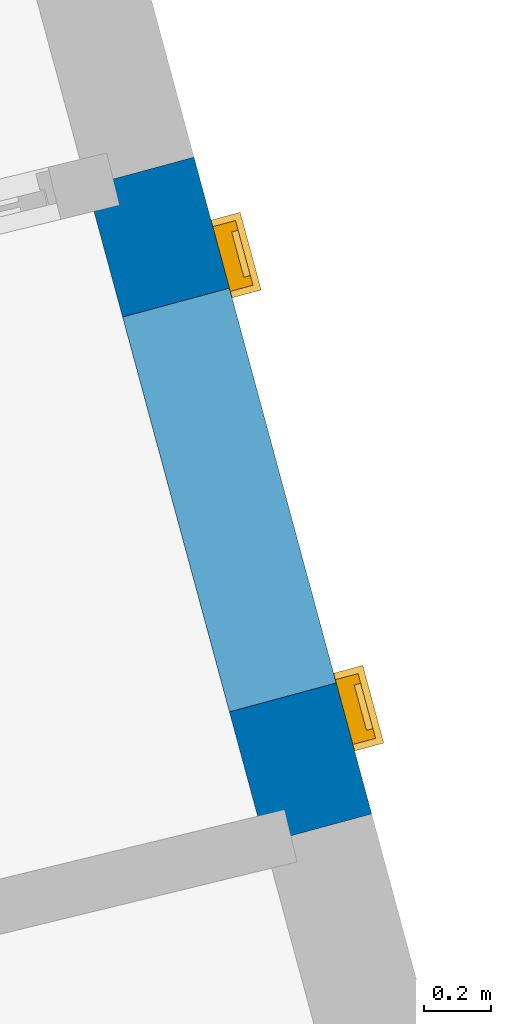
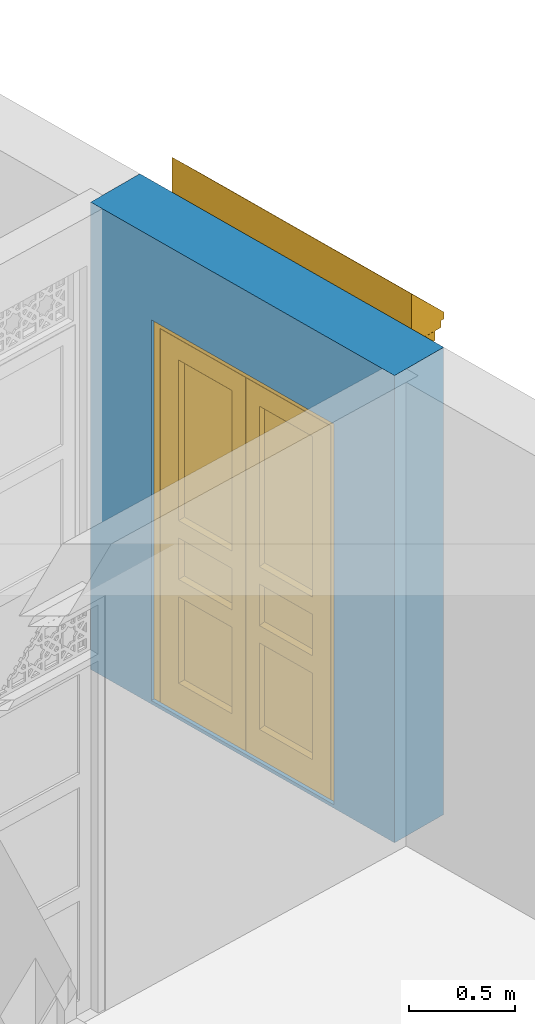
# One storey, part 12 of 15: 1 door, 1 wall, 1 opening.
"""IFC4 building model written with IfcOpenShell, lengths in metres."""

from ifc_helpers import new_model, si_unit, frame, origin, origin_with_axes, place, context, subcontext, project, spatial, polyline, outline, extrude, faceted_brep, source, transform, mapped, material, layer, layer_set, layer_usage, type_object, type_shapes, element, fill, save


model = new_model("IFC4")

# Units and contexts
model_context = context("Model", 3, world=origin_with_axes())
body_context = subcontext(model_context, "Body", "Model", "MODEL_VIEW")
ifc_project = project(units=[si_unit("PLANEANGLEUNIT", "RADIAN"), si_unit("MASSUNIT", "GRAM", prefix="KILO"), si_unit("FORCEUNIT", "NEWTON", prefix="KILO"), si_unit("LENGTHUNIT", "METRE"), si_unit("AREAUNIT", "SQUARE_METRE"), si_unit("VOLUMEUNIT", "CUBIC_METRE")], contexts=[model_context, model_context])

# Site, building, storey
site_placement = place(None, origin_with_axes())
site = spatial("IfcSite", under=ifc_project, at=site_placement, Name="Site plot-4", CompositionType="ELEMENT")
building_placement = place(None, origin_with_axes())
building = spatial("IfcBuilding", under=site, at=building_placement, Name="Building plot-4", CompositionType="ELEMENT")
storey_placement = place(None, origin_with_axes())
storey = spatial("IfcBuildingStorey", under=building, at=storey_placement, Name="plot-4 0", CompositionType="ELEMENT", Elevation=0.0)

# Wall, opening, door
ifc_material = material(Name="Masonry")
ifc_layer = layer(ifc_material, 0.33, ventilated=False)
ifc_layer_set = layer_set([ifc_layer], Name="exterior_0.08_0.25")
ifc_layer_usage = layer_usage(ifc_layer_set, "AXIS2", "POSITIVE", -0.25)
wall_type = type_object("IfcWallType", Name="exterior_0.08_0.25", PredefinedType="SOLIDWALL", material=ifc_layer_set)
wall_placement = place(storey_placement, frame((27.9291027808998, 11.5572365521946, 0.0), z_axis=(0.0, 0.0, 1.0), x_axis=(-0.261170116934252, 0.965292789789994, 0.0)))
wall = element("IfcWall", 1, at=wall_placement, inside=storey, type_object=wall_type, material=ifc_layer_usage, Name="exterior", context=body_context, shape_type="SweptSolid", body=[
    extrude(outline(polyline([(-1.01682823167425e-16, 0.0799999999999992), (1.51410916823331e-15, -0.250000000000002), (2.02945493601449, -0.250000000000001), (2.02945493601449, 0.0799999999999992), (-1.01682823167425e-16, 0.0799999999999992)])), origin_with_axes(), (0.0, 0.0, 1.0), 2.7),
])
opening_placement = place(wall_placement, frame((0.404727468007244, 0.0, 0.02)))
opening = element("IfcOpeningElement", 2, at=opening_placement, cuts=wall, Name="My Opening", ObjectType="Opening", context=body_context, shape_type="SweptSolid", body=[
    extrude(outline(polyline([(0.0, -0.27), (1.22, -0.270000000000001), (1.22, 1.1), (5.55111512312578e-17, 1.1), (0.0, -0.27)])), origin_with_axes(), (0.0, 0.0, 1.0), 2.2),
])
door_type = type_object("IfcDoorType", Name="tunis_entry_short", OperationType="SINGLE_SWING_LEFT", PredefinedType="NOTDEFINED")
shared_shape = source(origin(), body_context, "Body", "Brep", [
    faceted_brep([(0.608, 0.33, 2.158), (0.042, 0.33, 2.158), (0.042, 0.28, 2.158), (0.608, 0.28, 2.158), (0.518, 0.33, 2.038), (0.162, 0.33, 2.038), (0.608, 0.33, 1.11), (0.608, 0.28, 1.11), (0.162, 0.28, 2.038), (0.518, 0.28, 2.038), (0.042, 0.33, 1.11), (0.042, 0.28, 1.11), (0.503, 0.31, 2.018), (0.182, 0.31, 2.018), (0.518, 0.33, 1.11), (0.162, 0.33, 1.11), (0.608, 0.28, 1.01), (0.608, 0.33, 1.01), (0.518, 0.28, 1.11), (0.182, 0.3, 2.018), (0.503, 0.3, 2.018), (0.162, 0.28, 1.11), (0.042, 0.33, 1.01), (0.042, 0.28, 1.01), (0.182, 0.31, 1.13), (0.503, 0.31, 1.13), (0.518, 0.33, 1.01), (0.162, 0.33, 1.01), (0.608, 0.28, 0.77), (0.608, 0.33, 0.77), (0.518, 0.28, 1.01), (0.503, 0.3, 1.13), (0.182, 0.3, 1.13), (0.162, 0.28, 1.01), (0.042, 0.33, 0.77), (0.042, 0.28, 0.77), (0.518, 0.33, 0.77), (0.162, 0.33, 0.77), (0.608, 0.28, 0.67), (0.608, 0.33, 0.67), (0.518, 0.28, 0.77), (0.162, 0.28, 0.77), (0.042, 0.33, 0.67), (0.042, 0.28, 0.67), (0.503, 0.31, 0.99), (0.182, 0.31, 0.99), (0.503, 0.31, 0.79), (0.518, 0.33, 0.67), (0.162, 0.33, 0.67), (0.182, 0.31, 0.79), (0.608, 0.33, 0.0), (0.608, 0.28, 0.0), (0.518, 0.28, 0.67), (0.503, 0.3, 0.99), (0.503, 0.3, 0.79), (0.182, 0.3, 0.99), (0.182, 0.3, 0.79), (0.162, 0.28, 0.67), (0.042, 0.28, 0.0), (0.042, 0.33, 0.0), (0.518, 0.33, 0.17), (0.162, 0.33, 0.17), (0.518, 0.28, 0.17), (0.483, 0.3, 0.97), (0.483, 0.3, 0.81), (0.202, 0.3, 0.97), (0.202, 0.3, 0.81), (0.162, 0.28, 0.17), (0.503, 0.31, 0.65), (0.182, 0.31, 0.65), (0.503, 0.31, 0.19), (0.182, 0.31, 0.19), (0.503, 0.3, 0.65), (0.503, 0.3, 0.19), (0.182, 0.3, 0.65), (0.483, 0.29, 0.97), (0.483, 0.29, 0.81), (0.202, 0.29, 0.97), (0.202, 0.29, 0.81), (0.182, 0.3, 0.19), (0.403, 0.26, 0.89), (0.282, 0.26, 0.89), (1.178, 0.33, 2.158), (0.612, 0.33, 2.158), (0.612, 0.28, 2.158), (1.178, 0.28, 2.158), (1.058, 0.33, 2.038), (0.702, 0.33, 2.038), (0.612, 0.33, 1.11), (0.612, 0.28, 1.11), (0.702, 0.28, 2.038), (1.058, 0.28, 2.038), (1.178, 0.28, 1.11), (1.178, 0.33, 1.11), (1.038, 0.31, 2.018), (0.717, 0.31, 2.018), (0.702, 0.33, 1.11), (1.058, 0.33, 1.11), (0.612, 0.33, 1.01), (0.612, 0.28, 1.01), (0.702, 0.28, 1.11), (0.717, 0.3, 2.018), (1.038, 0.3, 2.018), (1.058, 0.28, 1.11), (1.178, 0.28, 1.01), (1.178, 0.33, 1.01), (1.038, 0.31, 1.13), (0.717, 0.31, 1.13), (0.702, 0.33, 1.01), (1.058, 0.33, 1.01), (0.612, 0.33, 0.77), (0.612, 0.28, 0.77), (0.702, 0.28, 1.01), (0.717, 0.3, 1.13), (1.038, 0.3, 1.13), (1.058, 0.28, 1.01), (1.178, 0.28, 0.77), (1.178, 0.33, 0.77), (0.702, 0.33, 0.77), (1.058, 0.33, 0.77), (0.612, 0.33, 0.67), (0.612, 0.28, 0.67), (0.702, 0.28, 0.77), (1.058, 0.28, 0.77), (1.178, 0.28, 0.67), (1.178, 0.33, 0.67), (1.038, 0.31, 0.99), (0.717, 0.31, 0.99), (0.717, 0.31, 0.79), (0.702, 0.33, 0.67), (1.058, 0.33, 0.67), (1.038, 0.31, 0.79), (0.612, 0.28, 0.0), (0.612, 0.33, 0.0), (0.702, 0.28, 0.67), (0.717, 0.3, 0.79), (0.717, 0.3, 0.99), (1.038, 0.3, 0.99), (1.038, 0.3, 0.79), (1.058, 0.28, 0.67), (1.178, 0.33, 0.0), (1.178, 0.28, 0.0), (0.702, 0.33, 0.17), (1.058, 0.33, 0.17), (0.702, 0.28, 0.17), (0.737, 0.3, 0.81), (0.737, 0.3, 0.97), (1.018, 0.3, 0.97), (1.018, 0.3, 0.81), (1.058, 0.28, 0.17), (1.038, 0.31, 0.65), (0.717, 0.31, 0.65), (0.717, 0.31, 0.19), (1.038, 0.31, 0.19), (0.717, 0.3, 0.19), (0.717, 0.3, 0.65), (1.038, 0.3, 0.65), (0.737, 0.29, 0.81), (0.737, 0.29, 0.97), (1.018, 0.29, 0.97), (1.018, 0.29, 0.81), (1.038, 0.3, 0.19), (0.817, 0.26, 0.89), (0.938, 0.26, 0.89), (1.37, -0.058, 2.42), (1.37, -0.045, 2.407001), (1.41, -0.045, 2.407001), (1.41, -0.058, 2.42), (1.37, -0.075, 2.485001), (1.37, 0.0, 2.485001), (1.37, -0.04, 2.39), (1.41, -0.04, 2.39), (1.41, 0.0, 2.485001), (1.41, -0.075, 2.485001), (1.37, -0.075, 2.425), (1.41, -0.075, 2.425), (1.37, -0.082, 2.51), (1.37, 0.0, 2.59), (1.37, 0.0, 2.39), (1.41, 0.0, 2.39), (1.41, 0.0, 2.59), (1.41, -0.082, 2.51), (1.37, -0.1, 2.528), (1.41, -0.1, 2.528), (1.37, -0.125, 2.535), (1.37, -0.137, 2.59), (1.41, -0.137, 2.59), (1.41, -0.125, 2.535), (1.37, -0.137, 2.535), (1.41, -0.137, 2.535), (1.214, -0.058, 2.42), (1.214, -0.045, 2.407001), (1.254, -0.045, 2.407001), (1.254, -0.058, 2.42), (1.214, -0.075, 2.485001), (1.214, 0.0, 2.485001), (1.214, -0.04, 2.39), (1.254, -0.04, 2.39), (1.254, 0.0, 2.485001), (1.254, -0.075, 2.485001), (1.214, -0.075, 2.425), (1.254, -0.075, 2.425), (1.214, -0.082, 2.51), (1.214, 0.0, 2.59), (1.214, 0.0, 2.39), (1.254, 0.0, 2.39), (1.254, 0.0, 2.59), (1.254, -0.082, 2.51), (1.214, -0.1, 2.528), (1.254, -0.1, 2.528), (1.214, -0.125, 2.535), (1.214, -0.137, 2.59), (1.254, -0.137, 2.59), (1.254, -0.125, 2.535), (1.214, -0.137, 2.535), (1.254, -0.137, 2.535), (1.058, -0.058, 2.42), (1.058, -0.045, 2.407001), (1.098, -0.045, 2.407001), (1.098, -0.058, 2.42), (1.058, -0.075, 2.485001), (1.058, 0.0, 2.485001), (1.058, -0.04, 2.39), (1.098, -0.04, 2.39), (1.098, 0.0, 2.485001), (1.098, -0.075, 2.485001), (1.058, -0.075, 2.425), (1.098, -0.075, 2.425), (1.058, -0.082, 2.51), (1.058, 0.0, 2.59), (1.058, 0.0, 2.39), (1.098, 0.0, 2.39), (1.098, 0.0, 2.59), (1.098, -0.082, 2.51), (1.058, -0.1, 2.528), (1.098, -0.1, 2.528), (1.058, -0.125, 2.535), (1.058, -0.137, 2.59), (1.098, -0.137, 2.59), (1.098, -0.125, 2.535), (1.058, -0.137, 2.535), (1.098, -0.137, 2.535), (0.902, -0.058, 2.42), (0.902, -0.045, 2.407001), (0.942, -0.045, 2.407001), (0.942, -0.058, 2.42), (0.902, -0.075, 2.485001), (0.902, 0.0, 2.485001), (0.902, -0.04, 2.39), (0.942, -0.04, 2.39), (0.942, 0.0, 2.485001), (0.942, -0.075, 2.485001), (0.902, -0.075, 2.425), (0.942, -0.075, 2.425), (0.902, -0.082, 2.51), (0.902, 0.0, 2.59), (0.902, 0.0, 2.39), (0.942, 0.0, 2.39), (0.942, 0.0, 2.59), (0.942, -0.082, 2.51), (0.902, -0.1, 2.528), (0.942, -0.1, 2.528), (0.902, -0.125, 2.535), (0.902, -0.137, 2.59), (0.942, -0.137, 2.59), (0.942, -0.125, 2.535), (0.902, -0.137, 2.535), (0.942, -0.137, 2.535), (0.746, -0.058, 2.42), (0.746, -0.045, 2.407001), (0.786, -0.045, 2.407001), (0.786, -0.058, 2.42), (0.746, -0.075, 2.485001), (0.746, 0.0, 2.485001), (0.746, -0.04, 2.39), (0.786, -0.04, 2.39), (0.786, 0.0, 2.485001), (0.786, -0.075, 2.485001), (0.746, -0.075, 2.425), (0.786, -0.075, 2.425), (0.746, -0.082, 2.51), (0.746, 0.0, 2.59), (0.746, 0.0, 2.39), (0.786, 0.0, 2.39), (0.786, 0.0, 2.59), (0.786, -0.082, 2.51), (0.746, -0.1, 2.528), (0.786, -0.1, 2.528), (0.746, -0.125, 2.535), (0.746, -0.137, 2.59), (0.786, -0.137, 2.59), (0.786, -0.125, 2.535), (0.746, -0.137, 2.535), (0.786, -0.137, 2.535), (0.59, -0.058, 2.42), (0.59, -0.045, 2.407001), (0.63, -0.045, 2.407001), (0.63, -0.058, 2.42), (0.59, -0.075, 2.485001), (0.59, 0.0, 2.485001), (0.59, -0.04, 2.39), (0.63, -0.04, 2.39), (0.63, 0.0, 2.485001), (0.63, -0.075, 2.485001), (0.59, -0.075, 2.425), (0.63, -0.075, 2.425), (0.59, -0.082, 2.51), (0.59, 0.0, 2.59), (0.59, 0.0, 2.39), (0.63, 0.0, 2.39), (0.63, 0.0, 2.59), (0.63, -0.082, 2.51), (0.59, -0.1, 2.528), (0.63, -0.1, 2.528), (0.59, -0.125, 2.535), (0.59, -0.137, 2.59), (0.63, -0.137, 2.59), (0.63, -0.125, 2.535), (0.59, -0.137, 2.535), (0.63, -0.137, 2.535), (0.434, -0.058, 2.42), (0.434, -0.045, 2.407001), (0.474, -0.045, 2.407001), (0.474, -0.058, 2.42), (0.434, -0.075, 2.485001), (0.434, 0.0, 2.485001), (0.434, -0.04, 2.39), (0.474, -0.04, 2.39), (0.474, 0.0, 2.485001), (0.474, -0.075, 2.485001), (0.434, -0.075, 2.425), (0.474, -0.075, 2.425), (0.434, -0.082, 2.51), (0.434, 0.0, 2.59), (0.434, 0.0, 2.39), (0.474, 0.0, 2.39), (0.474, 0.0, 2.59), (0.474, -0.082, 2.51), (0.434, -0.1, 2.528), (0.474, -0.1, 2.528), (0.434, -0.125, 2.535), (0.434, -0.137, 2.59), (0.474, -0.137, 2.59), (0.474, -0.125, 2.535), (0.434, -0.137, 2.535), (0.474, -0.137, 2.535), (0.278, -0.058, 2.42), (0.278, -0.045, 2.407001), (0.318, -0.045, 2.407001), (0.318, -0.058, 2.42), (0.278, -0.075, 2.485001), (0.278, 0.0, 2.485001), (0.278, -0.04, 2.39), (0.318, -0.04, 2.39), (0.318, 0.0, 2.485001), (0.318, -0.075, 2.485001), (0.278, -0.075, 2.425), (0.318, -0.075, 2.425), (0.278, -0.082, 2.51), (0.278, 0.0, 2.59), (0.278, 0.0, 2.39), (0.318, 0.0, 2.39), (0.318, 0.0, 2.59), (0.318, -0.082, 2.51), (0.278, -0.1, 2.528), (0.318, -0.1, 2.528), (0.278, -0.125, 2.535), (0.278, -0.137, 2.59), (0.318, -0.137, 2.59), (0.318, -0.125, 2.535), (0.278, -0.137, 2.535), (0.318, -0.137, 2.535), (0.122, -0.058, 2.42), (0.122, -0.045, 2.407001), (0.162, -0.045, 2.407001), (0.162, -0.058, 2.42), (0.122, -0.075, 2.485001), (0.122, 0.0, 2.485001), (0.122, -0.04, 2.39), (0.162, -0.04, 2.39), (0.162, 0.0, 2.485001), (0.162, -0.075, 2.485001), (0.122, -0.075, 2.425), (0.162, -0.075, 2.425), (0.122, -0.082, 2.51), (0.122, 0.0, 2.59), (0.122, 0.0, 2.39), (0.162, 0.0, 2.39), (0.162, 0.0, 2.59), (0.162, -0.082, 2.51), (0.122, -0.1, 2.528), (0.162, -0.1, 2.528), (0.122, -0.125, 2.535), (0.122, -0.137, 2.59), (0.162, -0.137, 2.59), (0.162, -0.125, 2.535), (0.122, -0.137, 2.535), (0.162, -0.137, 2.535), (-0.034, -0.058, 2.42), (-0.034, -0.045, 2.407001), (0.006, -0.045, 2.407001), (0.006, -0.058, 2.42), (-0.034, -0.075, 2.485001), (-0.034, 0.0, 2.485001), (-0.034, -0.04, 2.39), (0.006, -0.04, 2.39), (0.006, 0.0, 2.485001), (0.006, -0.075, 2.485001), (-0.034, -0.075, 2.425), (0.006, -0.075, 2.425), (-0.034, -0.082, 2.51), (-0.034, 0.0, 2.59), (-0.034, 0.0, 2.39), (0.006, 0.0, 2.39), (0.006, 0.0, 2.59), (0.006, -0.082, 2.51), (-0.034, -0.1, 2.528), (0.006, -0.1, 2.528), (-0.034, -0.125, 2.535), (-0.034, -0.137, 2.59), (0.006, -0.137, 2.59), (0.006, -0.125, 2.535), (-0.034, -0.137, 2.535), (0.006, -0.137, 2.535), (-0.19, -0.058, 2.42), (-0.19, -0.045, 2.407001), (-0.15, -0.045, 2.407001), (-0.15, -0.058, 2.42), (-0.19, -0.075, 2.485001), (-0.19, 0.0, 2.485001), (-0.19, -0.04, 2.39), (-0.15, -0.04, 2.39), (-0.15, 0.0, 2.485001), (-0.15, -0.075, 2.485001), (-0.19, -0.075, 2.425), (-0.15, -0.075, 2.425), (-0.19, -0.082, 2.51), (-0.19, 0.0, 2.59), (-0.19, 0.0, 2.39), (-0.15, 0.0, 2.39), (-0.15, 0.0, 2.59), (-0.15, -0.082, 2.51), (-0.19, -0.1, 2.528), (-0.15, -0.1, 2.528), (-0.19, -0.125, 2.535), (-0.19, -0.137, 2.59), (-0.15, -0.137, 2.59), (-0.15, -0.125, 2.535), (-0.19, -0.137, 2.535), (-0.15, -0.137, 2.535), (1.18, 0.33, 0.0), (1.18, 0.33, 2.16), (1.22, 0.33, 2.2), (1.22, 0.33, 0.0), (1.18, 0.28, 0.0), (1.18, 0.28, 2.16), (1.22, 0.25, 2.2), (1.22, 0.25, 0.0), (1.16, 0.28, 0.0), (1.16, 0.28, 2.14), (0.04, 0.28, 2.16), (0.04, 0.33, 2.16), (1.16, 0.25, 2.14), (1.16, 0.25, 0.0), (0.06, 0.28, 2.14), (0.04, 0.33, 0.0), (0.04, 0.28, 0.0), (0.0, 0.33, 2.2), (0.06, 0.25, 2.14), (0.06, 0.28, 0.0), (0.0, 0.33, 0.0), (0.0, 0.25, 0.0), (0.0, 0.25, 2.2), (0.06, 0.25, 0.0), (-0.19, -0.197, 2.67), (-0.19, 0.020086, 2.882274), (-0.19, -0.177, 2.63), (-0.19, -0.197, 2.63), (1.41, -0.197, 2.67), (1.41, 0.020086, 2.882274), (-0.19, -0.177, 2.59), (-0.19, 0.020086, 2.592274), (1.41, -0.197, 2.63), (1.41, -0.177, 2.63), (1.41, 0.020086, 2.592274), (1.41, -0.177, 2.59), (-0.02, -0.05, 0.48), (-0.16, -0.05, 0.48), (-0.19, -0.05, 0.45), (0.01, -0.05, 0.45), (-0.02, -0.03, 0.48), (-0.16, -0.03, 0.48), (-0.16, -0.05, 2.19), (-0.19, -0.05, 2.19), (-0.21, -0.07, 0.45), (0.03, -0.07, 0.45), (0.01, -0.05, 2.19), (-0.02, -0.05, 2.19), (-0.02, -0.03, 2.19), (-0.16, -0.03, 2.19), (-0.19, -0.05, 2.22), (-0.16, -0.05, 2.22), (-0.19, 0.25, 2.19), (-0.19, 0.25, 0.45), (-0.21, 0.25, 0.45), (-0.21, -0.07, 0.0), (0.03, -0.07, 0.0), (0.01, 0.25, 0.45), (0.03, 0.25, 0.45), (0.01, 0.25, 2.19), (0.03, 0.25, 0.0), (-0.21, 0.25, 0.0), (-0.02, -0.05, 2.22), (0.01, -0.05, 2.22), (-0.19, 0.25, 2.22), (-0.19, -0.05, 2.39), (-0.16, -0.05, 2.36), (1.21, 0.25, 2.19), (1.21, -0.05, 2.19), (-0.02, 0.25, 2.22), (1.21, -0.05, 2.22), (0.01, -0.05, 2.36), (-0.02, -0.05, 2.36), (-0.19, 0.25, 2.39), (-0.02, -0.03, 2.22), (-0.16, -0.03, 2.22), (-0.16, -0.03, 2.36), (-0.02, -0.05, 2.39), (0.01, 0.25, 2.39), (1.21, 0.25, 2.39), (1.21, 0.25, 0.45), (1.21, -0.05, 0.45), (-0.02, 0.25, 2.39), (1.24, -0.05, 2.19), (1.24, -0.05, 2.22), (1.21, -0.03, 2.22), (0.01, -0.03, 2.22), (0.01, -0.03, 2.36), (0.01, -0.05, 2.39), (-0.02, -0.03, 2.36), (1.21, -0.05, 2.39), (1.24, 0.25, 2.22), (1.24, 0.25, 2.39), (1.41, 0.25, 2.19), (1.41, 0.25, 0.45), (1.19, 0.25, 0.45), (1.19, -0.07, 0.45), (1.24, -0.05, 0.48), (1.38, -0.05, 2.19), (1.38, -0.05, 2.22), (1.21, -0.05, 2.36), (1.24, -0.05, 2.36), (1.21, -0.03, 2.36), (1.24, -0.05, 2.39), (1.41, 0.25, 2.22), (1.41, 0.25, 2.39), (1.41, -0.05, 2.19), (1.41, -0.05, 0.45), (1.43, 0.25, 0.0), (1.19, 0.25, 0.0), (1.19, -0.07, 0.0), (1.43, -0.07, 0.45), (1.24, -0.03, 0.48), (1.24, -0.03, 2.19), (1.38, -0.05, 0.48), (1.38, -0.03, 2.19), (1.41, -0.05, 2.22), (1.38, -0.03, 2.22), (1.24, -0.03, 2.22), (1.24, -0.03, 2.36), (1.41, -0.05, 2.39), (1.43, 0.25, 0.45), (1.43, -0.07, 0.0), (1.38, -0.03, 0.48), (1.38, -0.05, 2.36), (1.38, -0.03, 2.36)], [[[0, 1, 2, 3]], [[1, 0, 4, 5]], [[6, 0, 3, 7]], [[3, 2, 8, 9]], [[1, 10, 11, 2]], [[12, 13, 5, 4]], [[0, 6, 14, 4]], [[5, 15, 10, 1]], [[7, 16, 17, 6]], [[9, 18, 7, 3]], [[19, 20, 9, 8]], [[2, 11, 21, 8]], [[10, 22, 23, 11]], [[13, 24, 15, 5]], [[24, 13, 12, 25]], [[25, 12, 4, 14]], [[26, 14, 6, 17]], [[15, 27, 22, 10]], [[16, 28, 29, 17]], [[16, 7, 18, 30]], [[20, 31, 18, 9]], [[19, 32, 31, 20]], [[32, 19, 8, 21]], [[11, 23, 33, 21]], [[22, 34, 35, 23]], [[24, 25, 14, 15]], [[14, 26, 27, 15]], [[36, 26, 17, 29]], [[27, 37, 34, 22]], [[28, 38, 39, 29]], [[30, 40, 28, 16]], [[30, 18, 21, 33]], [[31, 32, 21, 18]], [[41, 33, 23, 35]], [[34, 42, 43, 35]], [[44, 45, 27, 26]], [[46, 44, 26, 36]], [[29, 39, 47, 36]], [[37, 48, 42, 34]], [[45, 49, 37, 27]], [[50, 39, 38, 51]], [[40, 52, 38, 28]], [[53, 54, 40, 30]], [[55, 53, 30, 33]], [[56, 55, 33, 41]], [[57, 41, 35, 43]], [[58, 43, 42, 59]], [[44, 46, 49, 45]], [[49, 46, 36, 37]], [[36, 47, 48, 37]], [[60, 47, 39, 50]], [[59, 42, 48, 61]], [[51, 38, 52, 62]], [[51, 58, 59, 50]], [[52, 40, 41, 57]], [[54, 56, 41, 40]], [[63, 64, 54, 53]], [[53, 55, 65, 63]], [[55, 56, 66, 65]], [[67, 57, 43, 58]], [[68, 69, 48, 47]], [[70, 68, 47, 60]], [[61, 60, 50, 59]], [[69, 71, 61, 48]], [[72, 73, 62, 52]], [[58, 51, 62, 67]], [[74, 72, 52, 57]], [[64, 66, 56, 54]], [[75, 76, 64, 63]], [[77, 75, 63, 65]], [[78, 77, 65, 66]], [[79, 74, 57, 67]], [[68, 70, 71, 69]], [[71, 70, 60, 61]], [[73, 79, 67, 62]], [[73, 72, 74, 79]], [[76, 78, 66, 64]], [[80, 76, 75]], [[81, 80, 75, 77]], [[81, 77, 78]], [[78, 76, 80, 81]], [[82, 83, 84, 85]], [[86, 87, 83, 82]], [[83, 88, 89, 84]], [[90, 91, 85, 84]], [[85, 92, 93, 82]], [[87, 86, 94, 95]], [[87, 96, 88, 83]], [[82, 93, 97, 86]], [[88, 98, 99, 89]], [[84, 89, 100, 90]], [[91, 90, 101, 102]], [[91, 103, 92, 85]], [[92, 104, 105, 93]], [[86, 97, 106, 94]], [[107, 95, 94, 106]], [[96, 87, 95, 107]], [[98, 88, 96, 108]], [[93, 105, 109, 97]], [[98, 110, 111, 99]], [[112, 100, 89, 99]], [[90, 100, 113, 101]], [[101, 113, 114, 102]], [[103, 91, 102, 114]], [[103, 115, 104, 92]], [[104, 116, 117, 105]], [[97, 96, 107, 106]], [[97, 109, 108, 96]], [[110, 98, 108, 118]], [[105, 117, 119, 109]], [[110, 120, 121, 111]], [[99, 111, 122, 112]], [[115, 103, 100, 112]], [[100, 103, 114, 113]], [[116, 104, 115, 123]], [[116, 124, 125, 117]], [[108, 109, 126, 127]], [[118, 108, 127, 128]], [[118, 129, 120, 110]], [[117, 125, 130, 119]], [[109, 119, 131, 126]], [[132, 121, 120, 133]], [[111, 121, 134, 122]], [[112, 122, 135, 136]], [[115, 112, 136, 137]], [[123, 115, 137, 138]], [[124, 116, 123, 139]], [[140, 125, 124, 141]], [[126, 131, 128, 127]], [[119, 118, 128, 131]], [[119, 130, 129, 118]], [[133, 120, 129, 142]], [[143, 130, 125, 140]], [[144, 134, 121, 132]], [[133, 140, 141, 132]], [[139, 123, 122, 134]], [[122, 123, 138, 135]], [[136, 135, 145, 146]], [[146, 147, 137, 136]], [[147, 148, 138, 137]], [[141, 124, 139, 149]], [[129, 130, 150, 151]], [[142, 129, 151, 152]], [[140, 133, 142, 143]], [[130, 143, 153, 150]], [[134, 144, 154, 155]], [[149, 144, 132, 141]], [[139, 134, 155, 156]], [[135, 138, 148, 145]], [[146, 145, 157, 158]], [[147, 146, 158, 159]], [[148, 147, 159, 160]], [[149, 139, 156, 161]], [[150, 153, 152, 151]], [[143, 142, 152, 153]], [[144, 149, 161, 154]], [[161, 156, 155, 154]], [[145, 148, 160, 157]], [[158, 157, 162]], [[159, 158, 162, 163]], [[160, 159, 163]], [[163, 162, 157, 160]], [[164, 165, 166, 167]], [[168, 169, 165, 164]], [[166, 165, 170, 171]], [[167, 166, 172, 173]], [[174, 164, 167, 175]], [[168, 176, 177, 169]], [[170, 165, 169, 178]], [[174, 168, 164]], [[170, 178, 179, 171]], [[179, 172, 166, 171]], [[172, 180, 181, 173]], [[175, 167, 173]], [[168, 174, 175, 173]], [[176, 168, 173, 181]], [[176, 182, 177]], [[180, 172, 169, 177]], [[178, 169, 172, 179]], [[183, 181, 180]], [[182, 176, 181, 183]], [[182, 184, 185, 177]], [[177, 185, 186, 180]], [[187, 183, 180, 186]], [[182, 183, 187, 184]], [[188, 185, 184]], [[189, 186, 185, 188]], [[189, 187, 186]], [[184, 187, 189, 188]], [[190, 191, 192, 193]], [[194, 195, 191, 190]], [[192, 191, 196, 197]], [[193, 192, 198, 199]], [[200, 190, 193, 201]], [[194, 202, 203, 195]], [[196, 191, 195, 204]], [[200, 194, 190]], [[196, 204, 205, 197]], [[205, 198, 192, 197]], [[198, 206, 207, 199]], [[201, 193, 199]], [[194, 200, 201, 199]], [[202, 194, 199, 207]], [[202, 208, 203]], [[206, 198, 195, 203]], [[204, 195, 198, 205]], [[209, 207, 206]], [[208, 202, 207, 209]], [[208, 210, 211, 203]], [[203, 211, 212, 206]], [[213, 209, 206, 212]], [[208, 209, 213, 210]], [[214, 211, 210]], [[215, 212, 211, 214]], [[215, 213, 212]], [[210, 213, 215, 214]], [[216, 217, 218, 219]], [[220, 221, 217, 216]], [[218, 217, 222, 223]], [[219, 218, 224, 225]], [[226, 216, 219, 227]], [[220, 228, 229, 221]], [[222, 217, 221, 230]], [[226, 220, 216]], [[222, 230, 231, 223]], [[231, 224, 218, 223]], [[224, 232, 233, 225]], [[227, 219, 225]], [[220, 226, 227, 225]], [[228, 220, 225, 233]], [[228, 234, 229]], [[232, 224, 221, 229]], [[230, 221, 224, 231]], [[235, 233, 232]], [[234, 228, 233, 235]], [[234, 236, 237, 229]], [[229, 237, 238, 232]], [[239, 235, 232, 238]], [[234, 235, 239, 236]], [[240, 237, 236]], [[241, 238, 237, 240]], [[241, 239, 238]], [[236, 239, 241, 240]], [[242, 243, 244, 245]], [[246, 247, 243, 242]], [[244, 243, 248, 249]], [[245, 244, 250, 251]], [[252, 242, 245, 253]], [[246, 254, 255, 247]], [[248, 243, 247, 256]], [[252, 246, 242]], [[248, 256, 257, 249]], [[257, 250, 244, 249]], [[250, 258, 259, 251]], [[253, 245, 251]], [[246, 252, 253, 251]], [[254, 246, 251, 259]], [[254, 260, 255]], [[258, 250, 247, 255]], [[256, 247, 250, 257]], [[261, 259, 258]], [[260, 254, 259, 261]], [[260, 262, 263, 255]], [[255, 263, 264, 258]], [[265, 261, 258, 264]], [[260, 261, 265, 262]], [[266, 263, 262]], [[267, 264, 263, 266]], [[267, 265, 264]], [[262, 265, 267, 266]], [[268, 269, 270, 271]], [[272, 273, 269, 268]], [[270, 269, 274, 275]], [[271, 270, 276, 277]], [[278, 268, 271, 279]], [[272, 280, 281, 273]], [[274, 269, 273, 282]], [[278, 272, 268]], [[274, 282, 283, 275]], [[283, 276, 270, 275]], [[276, 284, 285, 277]], [[279, 271, 277]], [[272, 278, 279, 277]], [[280, 272, 277, 285]], [[280, 286, 281]], [[284, 276, 273, 281]], [[282, 273, 276, 283]], [[287, 285, 284]], [[286, 280, 285, 287]], [[286, 288, 289, 281]], [[281, 289, 290, 284]], [[291, 287, 284, 290]], [[286, 287, 291, 288]], [[292, 289, 288]], [[293, 290, 289, 292]], [[293, 291, 290]], [[288, 291, 293, 292]], [[294, 295, 296, 297]], [[298, 299, 295, 294]], [[296, 295, 300, 301]], [[297, 296, 302, 303]], [[304, 294, 297, 305]], [[298, 306, 307, 299]], [[300, 295, 299, 308]], [[304, 298, 294]], [[300, 308, 309, 301]], [[309, 302, 296, 301]], [[302, 310, 311, 303]], [[305, 297, 303]], [[298, 304, 305, 303]], [[306, 298, 303, 311]], [[306, 312, 307]], [[310, 302, 299, 307]], [[308, 299, 302, 309]], [[313, 311, 310]], [[312, 306, 311, 313]], [[312, 314, 315, 307]], [[307, 315, 316, 310]], [[317, 313, 310, 316]], [[312, 313, 317, 314]], [[318, 315, 314]], [[319, 316, 315, 318]], [[319, 317, 316]], [[314, 317, 319, 318]], [[320, 321, 322, 323]], [[324, 325, 321, 320]], [[322, 321, 326, 327]], [[323, 322, 328, 329]], [[330, 320, 323, 331]], [[324, 332, 333, 325]], [[326, 321, 325, 334]], [[330, 324, 320]], [[326, 334, 335, 327]], [[335, 328, 322, 327]], [[328, 336, 337, 329]], [[331, 323, 329]], [[324, 330, 331, 329]], [[332, 324, 329, 337]], [[332, 338, 333]], [[336, 328, 325, 333]], [[334, 325, 328, 335]], [[339, 337, 336]], [[338, 332, 337, 339]], [[338, 340, 341, 333]], [[333, 341, 342, 336]], [[343, 339, 336, 342]], [[338, 339, 343, 340]], [[344, 341, 340]], [[345, 342, 341, 344]], [[345, 343, 342]], [[340, 343, 345, 344]], [[346, 347, 348, 349]], [[350, 351, 347, 346]], [[348, 347, 352, 353]], [[349, 348, 354, 355]], [[356, 346, 349, 357]], [[350, 358, 359, 351]], [[352, 347, 351, 360]], [[356, 350, 346]], [[352, 360, 361, 353]], [[361, 354, 348, 353]], [[354, 362, 363, 355]], [[357, 349, 355]], [[350, 356, 357, 355]], [[358, 350, 355, 363]], [[358, 364, 359]], [[362, 354, 351, 359]], [[360, 351, 354, 361]], [[365, 363, 362]], [[364, 358, 363, 365]], [[364, 366, 367, 359]], [[359, 367, 368, 362]], [[369, 365, 362, 368]], [[364, 365, 369, 366]], [[370, 367, 366]], [[371, 368, 367, 370]], [[371, 369, 368]], [[366, 369, 371, 370]], [[372, 373, 374, 375]], [[376, 377, 373, 372]], [[374, 373, 378, 379]], [[375, 374, 380, 381]], [[382, 372, 375, 383]], [[376, 384, 385, 377]], [[378, 373, 377, 386]], [[382, 376, 372]], [[378, 386, 387, 379]], [[387, 380, 374, 379]], [[380, 388, 389, 381]], [[383, 375, 381]], [[376, 382, 383, 381]], [[384, 376, 381, 389]], [[384, 390, 385]], [[388, 380, 377, 385]], [[386, 377, 380, 387]], [[391, 389, 388]], [[390, 384, 389, 391]], [[390, 392, 393, 385]], [[385, 393, 394, 388]], [[395, 391, 388, 394]], [[390, 391, 395, 392]], [[396, 393, 392]], [[397, 394, 393, 396]], [[397, 395, 394]], [[392, 395, 397, 396]], [[398, 399, 400, 401]], [[402, 403, 399, 398]], [[400, 399, 404, 405]], [[401, 400, 406, 407]], [[408, 398, 401, 409]], [[402, 410, 411, 403]], [[404, 399, 403, 412]], [[408, 402, 398]], [[404, 412, 413, 405]], [[413, 406, 400, 405]], [[406, 414, 415, 407]], [[409, 401, 407]], [[402, 408, 409, 407]], [[410, 402, 407, 415]], [[410, 416, 411]], [[414, 406, 403, 411]], [[412, 403, 406, 413]], [[417, 415, 414]], [[416, 410, 415, 417]], [[416, 418, 419, 411]], [[411, 419, 420, 414]], [[421, 417, 414, 420]], [[416, 417, 421, 418]], [[422, 419, 418]], [[423, 420, 419, 422]], [[423, 421, 420]], [[418, 421, 423, 422]], [[424, 425, 426, 427]], [[428, 429, 425, 424]], [[426, 425, 430, 431]], [[427, 426, 432, 433]], [[434, 424, 427, 435]], [[428, 436, 437, 429]], [[430, 425, 429, 438]], [[434, 428, 424]], [[430, 438, 439, 431]], [[439, 432, 426, 431]], [[432, 440, 441, 433]], [[435, 427, 433]], [[428, 434, 435, 433]], [[436, 428, 433, 441]], [[436, 442, 437]], [[440, 432, 429, 437]], [[438, 429, 432, 439]], [[443, 441, 440]], [[442, 436, 441, 443]], [[442, 444, 445, 437]], [[437, 445, 446, 440]], [[447, 443, 440, 446]], [[442, 443, 447, 444]], [[448, 445, 444]], [[449, 446, 445, 448]], [[449, 447, 446]], [[444, 447, 449, 448]], [[450, 451, 452, 453]], [[454, 455, 451, 450]], [[453, 452, 456, 457]], [[453, 457, 454, 450]], [[458, 459, 455, 454]], [[455, 460, 461, 451]], [[457, 456, 462, 463]], [[458, 454, 457, 463]], [[463, 462, 459, 458]], [[459, 464, 460, 455]], [[465, 461, 460, 466]], [[451, 461, 467, 452]], [[464, 459, 462, 468]], [[466, 460, 464, 469]], [[470, 467, 461, 465]], [[465, 466, 471, 470]], [[456, 452, 467, 472]], [[469, 464, 468, 473]], [[473, 471, 466, 469]], [[471, 472, 467, 470]], [[468, 462, 456, 472]], [[473, 468, 472, 471]], [[474, 475, 476, 477]], [[478, 479, 475, 474]], [[480, 476, 475, 481]], [[482, 477, 476, 483]], [[474, 477, 482, 478]], [[482, 483, 479, 478]], [[484, 481, 475, 479]], [[485, 483, 476, 480]], [[484, 485, 480, 481]], [[484, 479, 483, 485]], [[486, 487, 488, 489]], [[487, 486, 490, 491]], [[487, 492, 493, 488]], [[489, 488, 494, 495]], [[489, 496, 497, 486]], [[486, 497, 498, 490]], [[491, 490, 498, 499]], [[492, 487, 491, 499]], [[500, 493, 492, 501]], [[488, 493, 502, 503]], [[488, 503, 504, 494]], [[505, 506, 495, 494]], [[507, 489, 495, 508]], [[496, 489, 507, 509]], [[510, 511, 503, 507]], [[503, 502, 509, 507]], [[512, 497, 496, 513]], [[497, 492, 499, 498]], [[514, 502, 493, 500]], [[492, 497, 512, 501]], [[515, 500, 501, 516]], [[504, 503, 511]], [[505, 494, 504, 511]], [[511, 510, 506, 505]], [[508, 495, 506, 510]], [[508, 510, 507]], [[496, 509, 517, 518]], [[514, 519, 509, 502]], [[496, 518, 520, 513]], [[513, 521, 522, 512]], [[523, 514, 500, 515]], [[501, 512, 524, 525]], [[516, 501, 525, 526]], [[516, 522, 527, 515]], [[517, 509, 528, 529]], [[517, 530, 531, 518]], [[523, 532, 519, 514]], [[532, 528, 509, 519]], [[518, 533, 534, 520]], [[513, 520, 535, 536]], [[521, 513, 536, 537]], [[522, 521, 538, 527]], [[512, 522, 539, 524]], [[515, 527, 532, 523]], [[525, 524, 539, 526]], [[522, 516, 526, 539]], [[538, 540, 529, 528]], [[541, 517, 529, 542]], [[530, 517, 543, 544]], [[531, 530, 545, 546]], [[547, 533, 518, 531]], [[527, 538, 528, 532]], [[533, 548, 549, 534]], [[550, 520, 534, 551]], [[520, 550, 552, 535]], [[552, 537, 536, 535]], [[550, 521, 537, 552]], [[521, 550, 540, 538]], [[542, 529, 540, 553]], [[543, 517, 541, 554]], [[555, 554, 541, 542]], [[544, 543, 556, 557]], [[558, 559, 530, 544]], [[545, 530, 559]], [[560, 546, 545, 559]], [[557, 531, 546, 561]], [[533, 547, 562, 563]], [[564, 547, 531, 557]], [[548, 533, 563, 565]], [[549, 548, 556, 566]], [[534, 549, 567, 568]], [[551, 534, 568, 569]], [[550, 551, 553, 540]], [[555, 542, 553, 570]], [[566, 556, 543, 554]], [[570, 566, 554, 555]], [[557, 556, 548, 564]], [[544, 557, 561, 571]], [[559, 558, 572, 560]], [[571, 558, 544]], [[560, 572, 561, 546]], [[547, 564, 573, 562]], [[565, 563, 562, 573]], [[564, 548, 565, 573]], [[574, 549, 566, 570]], [[549, 574, 575, 567]], [[568, 567, 575, 569]], [[574, 551, 569, 575]], [[570, 553, 551, 574]], [[558, 571, 561, 572]]]),
])
type_shapes(door_type, [shared_shape])
door_placement = place(storey_placement, frame((28.0840291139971, 12.0184329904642, 0.02), z_axis=(0.0, 0.0, 1.0), x_axis=(-0.318627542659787, 1.17765720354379, 0.0)))
door = element("IfcDoor", 3, at=door_placement, inside=storey, type_object=door_type, Name="house entrance", OverallHeight=2.2, OverallWidth=1.22, context=body_context, shape_type="MappedRepresentation", body=[
    mapped(shared_shape, transform((0.0, 0.0, 0.0), scale=1.0)),
])
fill(opening, door)

save(model, "model.ifc")
